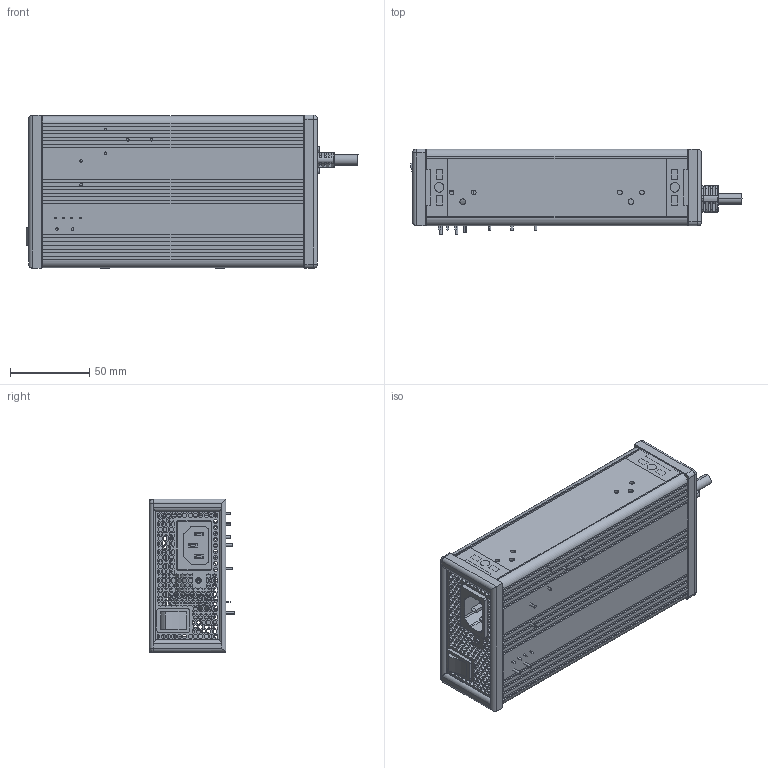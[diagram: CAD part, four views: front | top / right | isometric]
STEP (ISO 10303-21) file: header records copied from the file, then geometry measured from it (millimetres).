
FILE_DESCRIPTION(('Creo Elements/Direct Modeling STEP Export'),'2;1');
FILE_NAME('NPB-120240-线材.stp','2022-07-14T11:56:53',(''),(''),'PTC Creo Elements/Direct Modeling STEP processor for AP214 (Solid Model)','PTC Creo Elements/Direct Modeling 19.0E 27-Jun-2016 (C) Parametric Technology GmbH','');
FILE_SCHEMA(('AUTOMOTIVE_DESIGN { 1 0 10303 214 1 1 1 1 }'));
Products named in the file (188): 输出线无风扇0224; 输入面板; 螺丝.3; 螺丝.2.1; 螺丝.2; 螺丝.1; 螺丝; 热敏; 压敏; 六角螺母; ddd.1; ddd.1.1; Y.1.1.1.1.1.1.1.1; Y.1.1.1.1.1.1.1; Y.1.1.1.1.1.1; Y.1.1.1.1.1; Y.1.1.1.1; Y.1.1.1; Y.1.1; X电容.1; X电容; TU-301-SP-STA715_23.PRT; TR5.1; TR5; TR4; TR3; TR2; TR1; TO220-1.2.1.1.1.1.1.1.1; TO220-1.2.1.1.1.1.1.1; TO220-1.2.1.1.1.1.1; TO220-1.2.1.1.1.1; TO220-1.2.1.1.1; TO220-1.2.1.1; TO220-1.2.1; TO220-1.2; TN-M10_16.PRT; SR_0331; RY; PCBE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
Assembly tree (95 placements, depth 2):
  输出线无风扇0224
    输出线无风扇0224
  输入面板
    输入面板
  螺丝.3
    螺丝.3
  螺丝.2.1
    螺丝.2.1
  螺丝.2
    螺丝.2
Bounding box: 209.98 x 54.25 x 97.18 mm (x, y, z)
Volume: 325766.1 mm3; surface area: 331306.8 mm2
Topology: 97 solids, 97 shells, 6187 faces, 17183 edges, 11368 vertices
Faces by surface type: plane 5057, cylinder 954, torus 91, cone 52, sphere 24, bspline 8, extrusion 1
Entity records: 202601 total; most frequent: CARTESIAN_POINT 39712, ORIENTED_EDGE 33806, DIRECTION 29798, EDGE_CURVE 16900, VECTOR 14546, LINE 14545, VERTEX_POINT 11186, AXIS2_PLACEMENT_3D 7626
